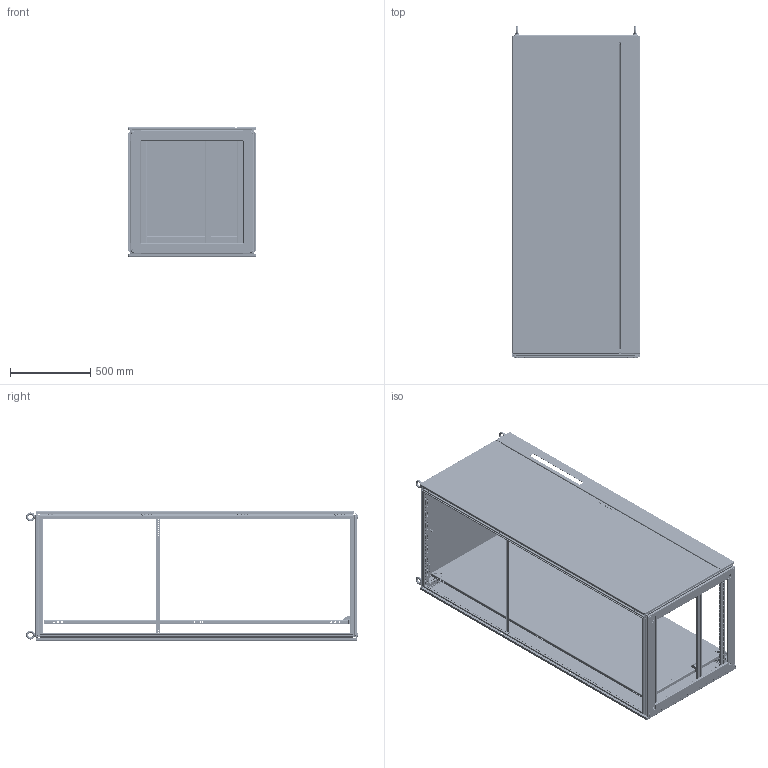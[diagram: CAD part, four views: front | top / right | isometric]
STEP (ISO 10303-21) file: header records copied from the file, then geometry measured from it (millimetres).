
FILE_DESCRIPTION((''),'2;1');
FILE_NAME('9951144_ASM','2015-03-11T',('us01724'),(''),'PRO/ENGINEER BY PARAMETRIC TECHNOLOGY CORPORATION, 2014310','PRO/ENGINEER BY PARAMETRIC TECHNOLOGY CORPORATION, 2014310','');
FILE_SCHEMA(('CONFIG_CONTROL_DESIGN'));
Products named in the file (53): D0242692_AF10; D0242692_AF11; D0242692_AF8; D0242692_AF9; D0242692; D0242687; D0241135; D0275649_ASM; D0241538; D0241473; D0241153; D0224444; D0241463_TS_MPL_SLIDE_BLOCK_L; D0241464_TS_MPL_SLIDE_BLOCK_R; D0241469_TS_MPL_RETAINER_RIGHT; D0241468_TS_MPL_RETAINER_LEFT; D0271001; 211119; D0274958; D0043241; TS_GASKET_DOOR_FMDC_2000; D0242763_TS8_GROUND_STUD_M8; D0242763_TS8_CAP_M8; D0242763_ASM; D0207315; D0242679; D0041315; D0223916; D0043241_ASM; D0043308; TS_GASKET_DR_FMDC_LEFT_0720; D0233320; D0233331; D0214486; D0272085_ASM; D0241492; D0241496; D0042690; D0030693; TS_LOCKBAR_ASSY_2000_DBL_ASM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
Assembly tree (135 placements, depth 4):
  9951144_ASM
    D0275649_ASM
      D0242692_AF10
      D0242692_AF11
      D0242692_AF8
      D0242692_AF9
      D0242692  x4
      D0242687  x4
      D0241135  x8
    D0241538  x2
    D0241473  x2
    D0241153  x3
    D0224444  x2
    D0241463_TS_MPL_SLIDE_BLOCK_L
    D0241464_TS_MPL_SLIDE_BLOCK_R
    D0241469_TS_MPL_RETAINER_RIGHT
    D0241468_TS_MPL_RETAINER_LEFT
    D0271001
    211119
    D0274958  x8
    D0043241_ASM
      D0043241
      TS_GASKET_DOOR_FMDC_2000
      D0242763_ASM  x2
        D0242763_TS8_GROUND_STUD_M8
        D0242763_TS8_CAP_M8
      D0207315  x4
      D0242679  x3
      D0041315  x4
      D0223916
    D0043308_ASM
      D0043308
      TS_GASKET_DR_FMDC_LEFT_0720
      D0242763_ASM  x2
        D0242763_TS8_GROUND_STUD_M8
        D0242763_TS8_CAP_M8
      D0242679  x6
      D0207315  x4
      D0223916  x8
      D0272085_ASM
        D0233320  x2
        D0233331  x2
        D0214486  x4
      TS_LOCKBAR_ASSY_2000_DBL_ASM
        D0241492
        D0241496  x2
        D0042690  x2
        D0030693  x4
    D0275728_ASM
      D0275683
      D0242763_ASM  x2
        D0242763_TS8_GROUND_STUD_M8
        D0242763_TS8_CAP_M8
    D0275871  x4
    D0275668_ASM
      TS_BASE_FRAME_MEM_800_NO_NOTCH  x4
      TS_BASE_FRAME_CORNER  x4
      D0333198  x4
      D0208100  x4
    D0275737_ASM
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Bounding box: 797 x 2064.45 x 805.62 mm (x, y, z)
Volume: 17569725.1 mm3; surface area: 18311255.6 mm2
Topology: 149 solids, 157 shells, 22107 faces, 62369 edges, 40324 vertices
Faces by surface type: plane 12625, cylinder 8300, cone 376, torus 324, bspline 228, sphere 158, extrusion 96
Entity records: 295684 total; most frequent: CARTESIAN_POINT 56044, DIRECTION 49020, ORIENTED_EDGE 48942, EDGE_CURVE 24475, VECTOR 16744, LINE 16720, AXIS2_PLACEMENT_3D 16138, VERTEX_POINT 15882
